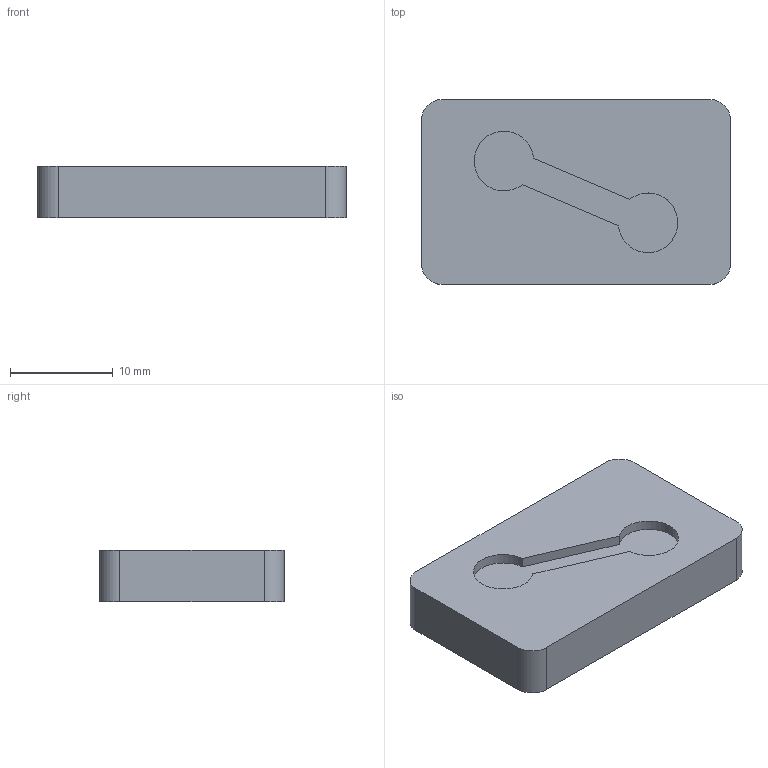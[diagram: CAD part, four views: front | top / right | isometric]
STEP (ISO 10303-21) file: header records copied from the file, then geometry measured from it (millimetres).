
FILE_DESCRIPTION(('Open CASCADE Model'),'2;1');
FILE_NAME('Open CASCADE Shape Model','2026-09-06T11:29:00',('Author'),( 'Open CASCADE'),'Open CASCADE STEP processor 7.7','Open CASCADE 7.7' ,'Unknown');
FILE_SCHEMA(('AUTOMOTIVE_DESIGN { 1 0 10303 214 1 1 1 1 }'));
Length unit declared in the file: millimetre
Products named in the file (1): Open CASCADE STEP translator 7.7 4
Bounding box: 30 x 18 x 5 mm (x, y, z)
Volume: 2602.9 mm3; surface area: 1586.9 mm2
Topology: 1 solids, 1 shells, 15 faces, 36 edges, 24 vertices
Faces by surface type: plane 9, cylinder 6
Entity records: 937 total; most frequent: CARTESIAN_POINT 194, DIRECTION 141, LINE 80, VECTOR 80, ORIENTED_EDGE 72, PCURVE 72, DEFINITIONAL_REPRESENTATION 72, EDGE_CURVE 36
